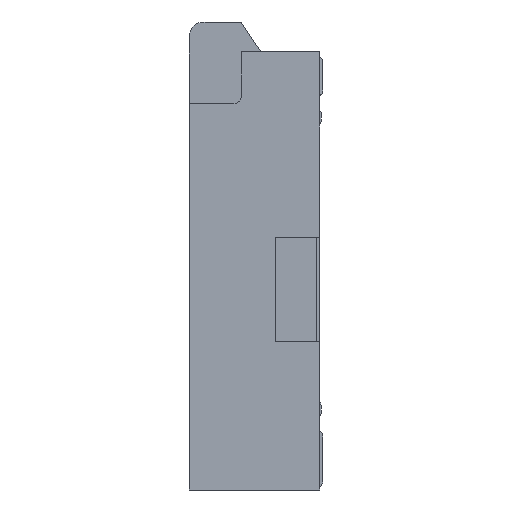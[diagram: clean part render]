
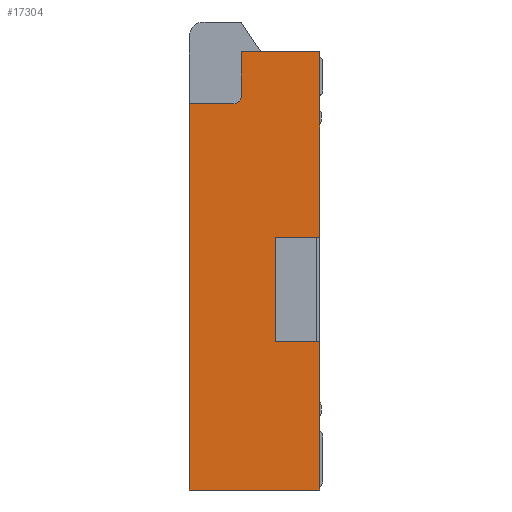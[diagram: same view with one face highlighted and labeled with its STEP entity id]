
A CAD part, left-side view. The second image highlights one B-rep face of the part: STEP entity #17304.
In plain terms, the highlighted planar face has unit normal (-1, 0, 0).
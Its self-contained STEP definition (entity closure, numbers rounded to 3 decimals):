
#110 = DIRECTION ( 'NONE',  ( -1., 0., 0. ) ) ;
#158 = CARTESIAN_POINT ( 'NONE',  ( -3.9, 0.02, -2.85 ) ) ;
#225 = LINE ( 'NONE', #7848, #22941 ) ;
#240 = DIRECTION ( 'NONE',  ( 0., 0., -1. ) ) ;
#905 = LINE ( 'NONE', #23196, #8503 ) ;
#1005 = CARTESIAN_POINT ( 'NONE',  ( -3.9, 0.32, -1.25 ) ) ;
#1591 = CARTESIAN_POINT ( 'NONE',  ( -3.9, 0.02, -1.95 ) ) ;
#1904 = CARTESIAN_POINT ( 'NONE',  ( -3.9, 0.02, 0. ) ) ;
#2258 = VERTEX_POINT ( 'NONE', #18863 ) ;
#2363 = DIRECTION ( 'NONE',  ( -1., 0., 0. ) ) ;
#2595 = LINE ( 'NONE', #12471, #20557 ) ;
#2599 = LINE ( 'NONE', #19864, #8523 ) ;
#3222 = VECTOR ( 'NONE', #7262, 1000. ) ;
#3462 = DIRECTION ( 'NONE',  ( 0., 1., 0. ) ) ;
#3531 = VERTEX_POINT ( 'NONE', #1005 ) ;
#4169 = EDGE_CURVE ( 'NONE', #23335, #10266, #905, .T. ) ;
#4241 = PLANE ( 'NONE',  #7034 ) ;
#4342 = ORIENTED_EDGE ( 'NONE', *, *, #10133, .F. ) ;
#4503 = LINE ( 'NONE', #13658, #10586 ) ;
#4610 = DIRECTION ( 'NONE',  ( 0., 0., -1. ) ) ;
#5161 = ORIENTED_EDGE ( 'NONE', *, *, #20818, .T. ) ;
#5272 = ORIENTED_EDGE ( 'NONE', *, *, #15580, .F. ) ;
#5364 = DIRECTION ( 'NONE',  ( 0., -1., 0. ) ) ;
#5586 = VECTOR ( 'NONE', #18176, 1000. ) ;
#5669 = CARTESIAN_POINT ( 'NONE',  ( -3.9, 0.32, -1.95 ) ) ;
#6037 = VECTOR ( 'NONE', #3462, 1000. ) ;
#6498 = EDGE_CURVE ( 'NONE', #7979, #12344, #4503, .T. ) ;
#6608 = CARTESIAN_POINT ( 'NONE',  ( -3.9, 0.55, 0. ) ) ;
#7034 = AXIS2_PLACEMENT_3D ( 'NONE', #15885, #2363, #4610 ) ;
#7069 = VERTEX_POINT ( 'NONE', #16089 ) ;
#7126 = ORIENTED_EDGE ( 'NONE', *, *, #6498, .F. ) ;
#7143 = LINE ( 'NONE', #24389, #3222 ) ;
#7262 = DIRECTION ( 'NONE',  ( 0., 0., 1. ) ) ;
#7373 = VERTEX_POINT ( 'NONE', #5669 ) ;
#7416 = VECTOR ( 'NONE', #5364, 1000. ) ;
#7783 = LINE ( 'NONE', #158, #21778 ) ;
#7836 = VERTEX_POINT ( 'NONE', #6608 ) ;
#7848 = CARTESIAN_POINT ( 'NONE',  ( -3.9, 0.9, -0.35 ) ) ;
#7979 = VERTEX_POINT ( 'NONE', #1591 ) ;
#8503 = VECTOR ( 'NONE', #21194, 1000. ) ;
#8523 = VECTOR ( 'NONE', #16347, 1000. ) ;
#9107 = LINE ( 'NONE', #16861, #6037 ) ;
#9128 = LINE ( 'NONE', #16760, #7416 ) ;
#9514 = CARTESIAN_POINT ( 'NONE',  ( -3.9, 0.6, -0.35 ) ) ;
#10133 = EDGE_CURVE ( 'NONE', #7836, #14867, #9128, .T. ) ;
#10266 = VERTEX_POINT ( 'NONE', #11495 ) ;
#10282 = EDGE_CURVE ( 'NONE', #20153, #7069, #18607, .T. ) ;
#10586 = VECTOR ( 'NONE', #12028, 1000. ) ;
#11495 = CARTESIAN_POINT ( 'NONE',  ( -3.9, 0.9, -0.35 ) ) ;
#11970 = EDGE_CURVE ( 'NONE', #7979, #7373, #12781, .T. ) ;
#12028 = DIRECTION ( 'NONE',  ( 0., 0., -1. ) ) ;
#12344 = VERTEX_POINT ( 'NONE', #21267 ) ;
#12471 = CARTESIAN_POINT ( 'NONE',  ( -3.9, 0.02, -1.25 ) ) ;
#12600 = DIRECTION ( 'NONE',  ( 0., 1., 0. ) ) ;
#12781 = LINE ( 'NONE', #18412, #5586 ) ;
#13250 = CARTESIAN_POINT ( 'NONE',  ( -3.9, 0.6, -0.3 ) ) ;
#13494 = ORIENTED_EDGE ( 'NONE', *, *, #21664, .T. ) ;
#13658 = CARTESIAN_POINT ( 'NONE',  ( -3.9, 0.02, -2.85 ) ) ;
#13767 = FACE_OUTER_BOUND ( 'NONE', #16336, .T. ) ;
#14090 = ORIENTED_EDGE ( 'NONE', *, *, #11970, .T. ) ;
#14786 = ORIENTED_EDGE ( 'NONE', *, *, #10282, .F. ) ;
#14867 = VERTEX_POINT ( 'NONE', #1904 ) ;
#15580 = EDGE_CURVE ( 'NONE', #12344, #23335, #9107, .T. ) ;
#15885 = CARTESIAN_POINT ( 'NONE',  ( -3.9, 0., 0. ) ) ;
#16089 = CARTESIAN_POINT ( 'NONE',  ( -3.9, 0.55, -0.3 ) ) ;
#16336 = EDGE_LOOP ( 'NONE', ( #13494, #22967, #4342, #5161, #14786, #21809, #17409, #5272, #7126, #14090, #19072 ) ) ;
#16347 = DIRECTION ( 'NONE',  ( 0., 0., -1. ) ) ;
#16555 = EDGE_CURVE ( 'NONE', #14867, #2258, #7783, .T. ) ;
#16620 = AXIS2_PLACEMENT_3D ( 'NONE', #13250, #110, #240 ) ;
#16760 = CARTESIAN_POINT ( 'NONE',  ( -3.9, 0.9, 0. ) ) ;
#16861 = CARTESIAN_POINT ( 'NONE',  ( -3.9, -0.564, -2.95 ) ) ;
#17304 = ADVANCED_FACE ( 'NONE', ( #13767 ), #4241, .T. ) ;
#17409 = ORIENTED_EDGE ( 'NONE', *, *, #4169, .F. ) ;
#18176 = DIRECTION ( 'NONE',  ( 0., 1., 0. ) ) ;
#18412 = CARTESIAN_POINT ( 'NONE',  ( -3.9, 0.02, -1.95 ) ) ;
#18607 = CIRCLE ( 'NONE', #16620, 0.05 ) ;
#18845 = EDGE_CURVE ( 'NONE', #7373, #3531, #7143, .T. ) ;
#18863 = CARTESIAN_POINT ( 'NONE',  ( -3.9, 0.02, -1.25 ) ) ;
#19072 = ORIENTED_EDGE ( 'NONE', *, *, #18845, .T. ) ;
#19864 = CARTESIAN_POINT ( 'NONE',  ( -3.9, 0.55, 0. ) ) ;
#20153 = VERTEX_POINT ( 'NONE', #9514 ) ;
#20557 = VECTOR ( 'NONE', #23838, 1000. ) ;
#20818 = EDGE_CURVE ( 'NONE', #7836, #7069, #2599, .T. ) ;
#20921 = DIRECTION ( 'NONE',  ( 0., 0., -1. ) ) ;
#21194 = DIRECTION ( 'NONE',  ( 0., 0., 1. ) ) ;
#21267 = CARTESIAN_POINT ( 'NONE',  ( -3.9, 0.02, -2.95 ) ) ;
#21653 = EDGE_CURVE ( 'NONE', #20153, #10266, #225, .T. ) ;
#21664 = EDGE_CURVE ( 'NONE', #3531, #2258, #2595, .T. ) ;
#21778 = VECTOR ( 'NONE', #20921, 1000. ) ;
#21809 = ORIENTED_EDGE ( 'NONE', *, *, #21653, .T. ) ;
#22941 = VECTOR ( 'NONE', #12600, 1000. ) ;
#22967 = ORIENTED_EDGE ( 'NONE', *, *, #16555, .F. ) ;
#23196 = CARTESIAN_POINT ( 'NONE',  ( -3.9, 0.9, 0. ) ) ;
#23335 = VERTEX_POINT ( 'NONE', #24015 ) ;
#23838 = DIRECTION ( 'NONE',  ( 0., -1., 0. ) ) ;
#24015 = CARTESIAN_POINT ( 'NONE',  ( -3.9, 0.9, -2.95 ) ) ;
#24389 = CARTESIAN_POINT ( 'NONE',  ( -3.9, 0.32, -1.25 ) ) ;
